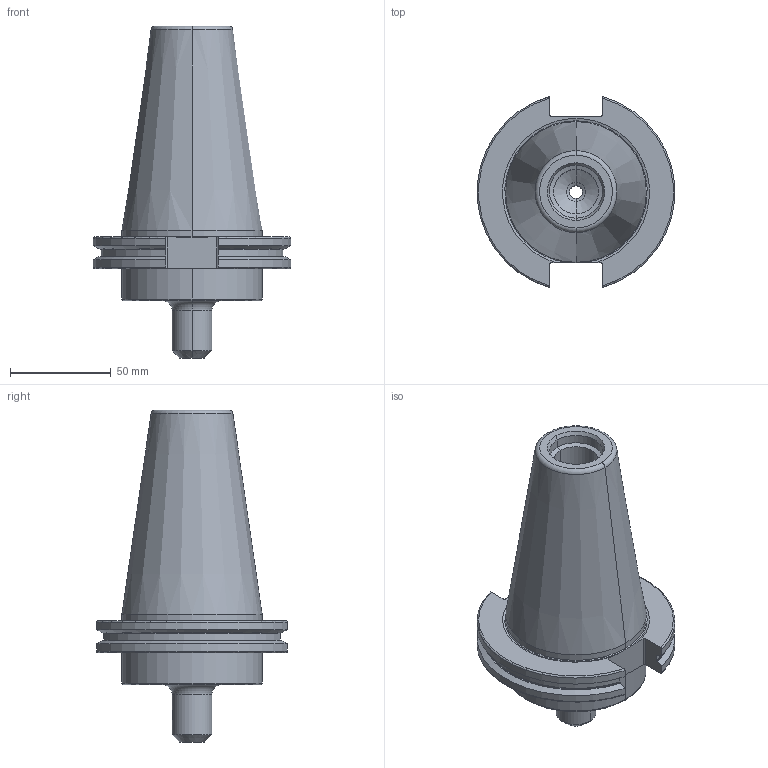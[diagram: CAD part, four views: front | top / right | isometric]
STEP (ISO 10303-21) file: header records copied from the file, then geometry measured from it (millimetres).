
FILE_DESCRIPTION (( 'STEP AP214' ), '1' );
FILE_NAME ('RC5EM02502500.STEP', '2019-02-08T14:29:02', ( '' ), ( '' ), 'SwSTEP 2.0', 'SolidWorks 2019', '' );
FILE_SCHEMA (( 'AUTOMOTIVE_DESIGN' ));
Length unit declared in the file: inch
Products named in the file (1): RC5EM02502500
Bounding box: 98.05 x 94.95 x 165.1 mm (x, y, z)
Volume: 388040.4 mm3; surface area: 50019.4 mm2
Topology: 1 solids, 1 shells, 116 faces, 294 edges, 180 vertices
Faces by surface type: plane 35, cylinder 34, cone 31, torus 16
Entity records: 3807 total; most frequent: CARTESIAN_POINT 947, DIRECTION 591, ORIENTED_EDGE 580, EDGE_CURVE 290, AXIS2_PLACEMENT_3D 234, VERTEX_POINT 180, VECTOR 123, LINE 123
